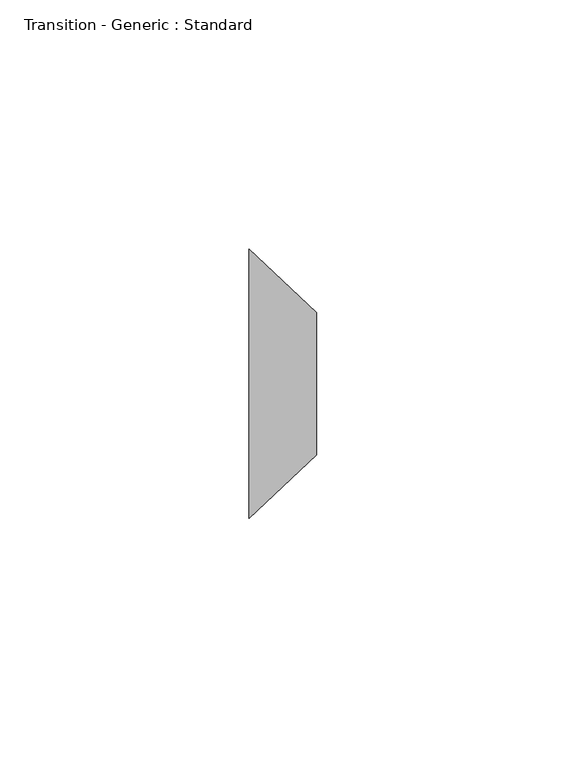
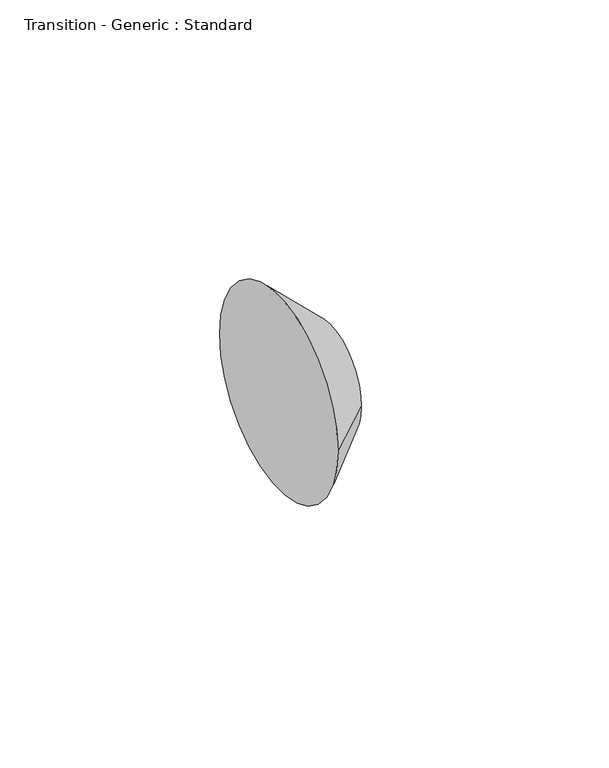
"""IFC4 building model written with IfcOpenShell, lengths in millimetres: pipe fitting geometry, Transition - Generic : Standard."""

from ifc_helpers import new_model, si_unit, frame, origin, place, context, project, spatial, polyline, circle_curve, source, transform, mapped, element, save
from ifc_brep_helpers import plane_surface, revolved_surface, advanced_brep


def transition_generic_standard_702676cc(model_context):
    return source(origin(), model_context, "Body", "AdvancedBrep", [
        advanced_brep(
        [(13.49375, -14.2875, 0.0), (13.49375, 14.2875, 0.0), (0.0, -26.9875, 0.0), (0.0, 26.9875, 0.0)],
        [
            (0, 1, circle_curve(frame((13.49375, 0.0, 0.0), z_axis=(1.0, 0.0, 0.0), x_axis=(0.0, -1.0, 0.0)), 14.2875)),
            (1, 0, circle_curve(frame((13.49375, 0.0, 0.0), z_axis=(1.0, 0.0, 0.0), x_axis=(0.0, 1.0, 0.0)), 14.2875)),
            (2, 3, circle_curve(frame((0.0, 0.0, 0.0), z_axis=(-1.0, 0.0, 0.0), x_axis=(0.0, 1.0, 0.0)), 26.9875)),
            (3, 2, circle_curve(frame((0.0, 0.0, 0.0), z_axis=(-1.0, 0.0, 0.0), x_axis=(0.0, -1.0, 0.0)), 26.9875)),
            (3, 1),
            (0, 2),
        ],
        [
            plane_surface(frame((13.49375, 0.0, 0.0), z_axis=(1.0, 0.0, 0.0), x_axis=(0.0, 0.0, -1.0))),
            plane_surface(frame((0.0, 0.0, 0.0), z_axis=(-1.0, 0.0, 0.0), x_axis=(0.0, 0.0, -1.0))),
            revolved_surface(polyline([(13.493750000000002, -14.287500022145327, 0.0), (0.0, -26.9875, 0.0)]), (28.6742188, 0.0, 0.0), (-1.0, 0.0, 0.0)),
            revolved_surface(polyline([(13.493750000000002, 14.287500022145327, 0.0), (0.0, 26.9875, 0.0)]), (28.6742188, 0.0, 0.0), (-1.0, 0.0, 0.0)),
        ],
        [
            (0, [[1, 2]]),
            (1, [[3, 4]]),
            (2, [[-4, 5, -1, 6]]),
            (3, [[-3, -6, -2, -5]]),
        ],
    ),
    ])


if __name__ == "__main__":
    model = new_model("IFC4")
    model_context = context("Model", 3, world=origin())
    ifc_project = project(units=[si_unit("LENGTHUNIT", "METRE", prefix="MILLI")], contexts=[model_context])
    site = spatial("IfcSite", under=ifc_project)
    building = spatial("IfcBuilding", under=site)
    placement = place(None, origin())
    transition_generic_standard_shape = transition_generic_standard_702676cc(model_context)
    element("IfcPipeFitting", 1, ObjectType="Transition - Generic : Standard", at=placement, inside=building, context=model_context, shape_type="MappedRepresentation", body=[
        mapped(transition_generic_standard_shape, transform((0.0, 0.0, 0.0), x_axis=(1.0, 0.0, 0.0), y_axis=(0.0, 1.0, 0.0), z_axis=(0.0, 0.0, 1.0))),
    ])
    save(model, "model.ifc")
